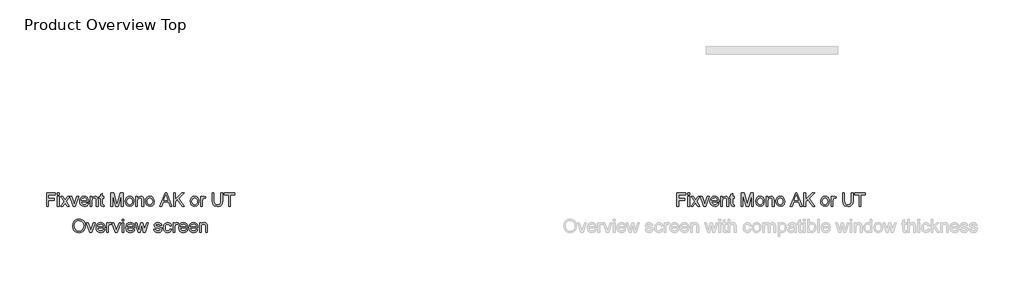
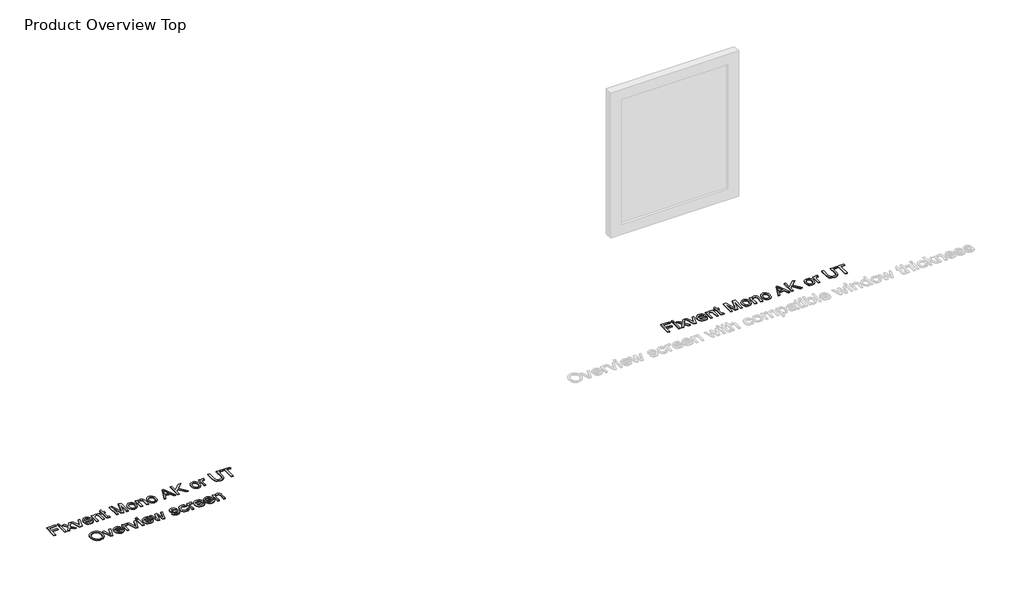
# One storey, part 1 of 3: 3 proxies.
"""IFC4 building model written with IfcOpenShell, lengths in millimetres."""

from ifc_helpers import new_model, si_unit, origin, origin_with_axes, place, context, project, spatial, polyline, outline, extrude, element, save

model = new_model("IFC4")

# Units and contexts
model_context = context("Model", 3, world=origin())
ifc_project = project(units=[si_unit("LENGTHUNIT", "METRE", prefix="MILLI")], contexts=[model_context])

# Site, building, storey
site = spatial("IfcSite", under=ifc_project)
building = spatial("IfcBuilding", under=site)
storey = spatial("IfcBuildingStorey", under=building, Name="Product Overview Top", Elevation=0.0)

# Proxies
placement = place(None, origin())
element("IfcBuildingElementProxy", 1, Name="100mm Arial", ObjectType="100mm Arial", at=placement, inside=storey, context=model_context, shape_type="SweptSolid", body=[
    extrude(outline(polyline([(-8244.2572775, -2523.9021098), (-8244.2572775, -2423.4457997), (-8176.7631941, -2423.4457997), (-8176.7631941, -2436.0028384), (-8231.7002387, -2436.0028384), (-8231.7002387, -2465.8258055), (-8184.6113433, -2465.8258055), (-8184.6113433, -2478.3828443), (-8231.7002387, -2478.3828443), (-8231.7002387, -2523.9021098), (-8244.2572775, -2523.9021098)])), origin_with_axes(), (0.0, 0.0, 1.0), 5.0),
    extrude(outline(polyline([(-8161.0668956, -2523.9021098), (-8161.0668956, -2450.129507), (-8148.5098569, -2450.129507), (-8148.5098569, -2523.9021098), (-8161.0668956, -2523.9021098)])), origin_with_axes(), (0.0, 0.0, 1.0), 5.0),
    extrude(outline(polyline([(-8161.0668956, -2436.0028384), (-8161.0668956, -2423.4457997), (-8148.5098569, -2423.4457997), (-8148.5098569, -2436.0028384), (-8161.0668956, -2436.0028384)])), origin_with_axes(), (0.0, 0.0, 1.0), 5.0),
    extrude(outline(polyline([(-8137.5224479, -2523.9021098), (-8110.6915878, -2486.8196047), (-8135.9528181, -2450.129507), (-8120.8451308, -2450.129507), (-8108.6559741, -2467.7878428), (-8102.9660659, -2476.1265014), (-8098.0364471, -2469.3084217), (-8084.1550332, -2450.129507), (-8069.0473459, -2450.129507), (-8095.5839005, -2486.8196047), (-8070.0283646, -2523.9021098), (-8085.1360518, -2523.9021098), (-8100.5135192, -2501.6084609), (-8103.3339479, -2497.5372335), (-8122.4147607, -2523.9021098), (-8137.5224479, -2523.9021098)])), origin_with_axes(), (0.0, 0.0, 1.0), 5.0),
    extrude(outline(polyline([(-8040.9411615, -2523.9021098), (-8066.8891049, -2450.129507), (-8053.5963021, -2450.129507), (-8037.8754782, -2494.3243974), (-8033.1420632, -2509.18683), (-8028.50675, -2495.1582633), (-8012.6878242, -2450.129507), (-7999.3950215, -2450.129507), (-8025.0241338, -2523.9021098), (-8040.9411615, -2523.9021098)])), origin_with_axes(), (0.0, 0.0, 1.0), 5.0),
    extrude(outline(polyline([(-7936.7569804, -2501.927292), (-7924.4451963, -2503.4969218), (-7928.8812401, -2512.7736795), (-7935.9599028, -2519.7082551), (-7945.521769, -2524.0308685), (-7957.4074231, -2525.4717397), (-7972.141097, -2522.9854705), (-7983.4779938, -2515.5266631), (-7990.706875, -2503.5796953), (-7993.1165021, -2487.6289451), (-7990.6823496, -2471.1417003), (-7983.379892, -2458.8115221), (-7972.1962793, -2451.1227884), (-7958.1186616, -2448.5598772), (-7944.4794367, -2451.1166571), (-7933.5809325, -2458.7869967), (-7926.4348248, -2471.0926494), (-7924.0527889, -2487.5553687), (-7924.1263653, -2490.939883), (-7980.5594633, -2490.939883), (-7978.3858939, -2500.339268), (-7973.3367135, -2507.2493182), (-7966.0495843, -2511.4983552), (-7957.1621684, -2512.9147009), (-7944.8503843, -2510.290476), (-7936.7569804, -2501.927292)]), holes=[polyline([(-7980.5594633, -2478.3828443), (-7936.6098276, -2478.3828443), (-7941.6375482, -2467.0030279), (-7948.9583999, -2462.588444), (-7958.1677126, -2461.116916), (-7973.6310191, -2465.8135428), (-7978.4962585, -2471.3041816), (-7980.5594633, -2478.3828443)])]), origin_with_axes(), (0.0, 0.0, 1.0), 5.0),
    extrude(outline(polyline([(-7911.4957501, -2523.9021098), (-7911.4957501, -2450.129507), (-7898.9387113, -2450.129507), (-7898.9387113, -2460.4302029), (-7889.3369913, -2451.5274586), (-7876.2281295, -2448.5598772), (-7864.3700665, -2450.9511102), (-7856.2766626, -2457.2296296), (-7852.5120035, -2466.4634676), (-7851.849816, -2478.6035735), (-7851.849816, -2523.9021098), (-7864.4068547, -2523.9021098), (-7864.4068547, -2480.2958307), (-7865.8538572, -2469.1857944), (-7870.967417, -2463.3119452), (-7879.5881184, -2461.116916), (-7893.2120149, -2466.0465347), (-7897.5070372, -2473.1895768), (-7898.9387113, -2484.7594655), (-7898.9387113, -2523.9021098), (-7911.4957501, -2523.9021098)])), origin_with_axes(), (0.0, 0.0, 1.0), 5.0),
    extrude(outline(polyline([(-7807.9001803, -2513.4297357), (-7806.3305504, -2524.2699918), (-7815.723804, -2525.4717397), (-7826.2452291, -2523.387075), (-7831.4936789, -2517.917896), (-7833.0142578, -2503.6686001), (-7833.0142578, -2462.6865458), (-7842.4320369, -2462.6865458), (-7842.4320369, -2450.129507), (-7833.0142578, -2450.129507), (-7833.0142578, -2432.2013912), (-7820.457219, -2424.8192258), (-7820.457219, -2450.129507), (-7807.9001803, -2450.129507), (-7807.9001803, -2462.6865458), (-7820.457219, -2462.6865458), (-7820.457219, -2503.3007181), (-7819.7950314, -2509.7754412), (-7817.6490531, -2512.0685723), (-7813.3693593, -2512.9147009), (-7807.9001803, -2513.4297357)])), origin_with_axes(), (0.0, 0.0, 1.0), 5.0),
    extrude(outline(polyline([(-7754.5327655, -2523.9021098), (-7754.5327655, -2423.4457997), (-7732.9258296, -2423.4457997), (-7712.3734888, -2494.250821), (-7708.228685, -2509.0396772), (-7703.7405247, -2493.0245477), (-7683.5315404, -2423.4457997), (-7661.9246046, -2423.4457997), (-7661.9246046, -2523.9021098), (-7674.4816433, -2523.9021098), (-7674.4816433, -2436.0028384), (-7699.7183482, -2523.9021098), (-7716.7390219, -2523.9021098), (-7741.9757267, -2436.0028384), (-7741.9757267, -2523.9021098), (-7754.5327655, -2523.9021098)])), origin_with_axes(), (0.0, 0.0, 1.0), 5.0),
    extrude(outline(polyline([(-7644.6586763, -2487.0158084), (-7641.9424809, -2469.228714), (-7633.7938947, -2456.7268575), (-7623.7261907, -2450.6016223), (-7611.671924, -2448.5598772), (-7598.4802888, -2451.0461464), (-7587.9435353, -2458.5049538), (-7581.0365509, -2470.3476884), (-7578.7342227, -2485.9857388), (-7582.8054501, -2508.3284387), (-7594.6635131, -2520.9713166), (-7611.671924, -2525.4717397), (-7625.0229748, -2522.9946676), (-7635.5474655, -2515.5634513), (-7642.3808736, -2503.4723963), (-7644.6586763, -2487.0158084)]), holes=[polyline([(-7632.1016375, -2486.991283), (-7630.6485036, -2498.3557709), (-7626.289102, -2506.4522405), (-7619.7285397, -2511.2990858), (-7611.671924, -2512.9147009), (-7603.6520965, -2511.2898887), (-7597.103797, -2506.4154523), (-7592.7443954, -2498.2116838), (-7591.2912615, -2486.5988755), (-7592.7535924, -2475.5654813), (-7597.1405852, -2467.5793764), (-7603.6980818, -2462.7325311), (-7611.671924, -2461.116916), (-7619.7285397, -2462.7263997), (-7626.289102, -2467.5548509), (-7630.6485036, -2475.6329264), (-7632.1016375, -2486.991283)])]), origin_with_axes(), (0.0, 0.0, 1.0), 5.0),
    extrude(outline(polyline([(-7564.6075541, -2523.9021098), (-7564.6075541, -2450.129507), (-7552.0505154, -2450.129507), (-7552.0505154, -2460.4302029), (-7542.4487953, -2451.5274586), (-7529.3399335, -2448.5598772), (-7517.4818705, -2450.9511102), (-7509.3884666, -2457.2296296), (-7505.6238076, -2466.4634676), (-7504.96162, -2478.6035735), (-7504.96162, -2523.9021098), (-7517.5186587, -2523.9021098), (-7517.5186587, -2480.2958307), (-7518.9656613, -2469.1857944), (-7524.079221, -2463.3119452), (-7532.6999224, -2461.116916), (-7546.323819, -2466.0465347), (-7550.6188413, -2473.1895768), (-7552.0505154, -2484.7594655), (-7552.0505154, -2523.9021098), (-7564.6075541, -2523.9021098)])), origin_with_axes(), (0.0, 0.0, 1.0), 5.0),
    extrude(outline(polyline([(-7490.8349514, -2487.0158084), (-7488.118756, -2469.228714), (-7479.9701698, -2456.7268575), (-7469.9024658, -2450.6016223), (-7457.8481991, -2448.5598772), (-7444.6565639, -2451.0461464), (-7434.1198104, -2458.5049538), (-7427.212826, -2470.3476884), (-7424.9104978, -2485.9857388), (-7428.9817252, -2508.3284387), (-7440.8397882, -2520.9713166), (-7457.8481991, -2525.4717397), (-7471.1992499, -2522.9946676), (-7481.7237406, -2515.5634513), (-7488.5571487, -2503.4723963), (-7490.8349514, -2487.0158084)]), holes=[polyline([(-7478.2779126, -2486.991283), (-7476.8247787, -2498.3557709), (-7472.4653771, -2506.4522405), (-7465.9048148, -2511.2990858), (-7457.8481991, -2512.9147009), (-7449.8283716, -2511.2898887), (-7443.2800721, -2506.4154523), (-7438.9206705, -2498.2116838), (-7437.4675366, -2486.5988755), (-7438.9298675, -2475.5654813), (-7443.3168603, -2467.5793764), (-7449.8743569, -2462.7325311), (-7457.8481991, -2461.116916), (-7465.9048148, -2462.7263997), (-7472.4653771, -2467.5548509), (-7476.8247787, -2475.6329264), (-7478.2779126, -2486.991283)])]), origin_with_axes(), (0.0, 0.0, 1.0), 5.0),
    extrude(outline(polyline([(-7381.6721007, -2523.9021098), (-7341.5729632, -2423.4457997), (-7330.8798599, -2423.4457997), (-7290.7807224, -2523.9021098), (-7304.0489997, -2523.9021098), (-7315.5514434, -2492.5095129), (-7356.9259051, -2492.5095129), (-7368.4038234, -2523.9021098), (-7381.6721007, -2523.9021098)]), holes=[polyline([(-7352.3151174, -2479.9524741), (-7320.1377056, -2479.9524741), (-7329.1876027, -2455.2553295), (-7336.2264115, -2436.0028384), (-7342.4804054, -2453.0970885), (-7352.3151174, -2479.9524741)])]), origin_with_axes(), (0.0, 0.0, 1.0), 5.0),
    extrude(outline(polyline([(-7277.3652923, -2523.9021098), (-7277.3652923, -2423.4457997), (-7264.8082535, -2423.4457997), (-7264.8082535, -2472.6193597), (-7213.3047742, -2423.4457997), (-7195.7445403, -2423.4457997), (-7238.9829375, -2464.746685), (-7194.1749104, -2523.9021098), (-7209.5278524, -2523.9021098), (-7247.8856817, -2473.2324963), (-7264.8082535, -2489.3702532), (-7264.8082535, -2523.9021098), (-7277.3652923, -2523.9021098)])), origin_with_axes(), (0.0, 0.0, 1.0), 5.0),
    extrude(outline(polyline([(-7150.2252748, -2487.0158084), (-7147.5090794, -2469.228714), (-7139.3604932, -2456.7268575), (-7129.2927892, -2450.6016223), (-7117.2385225, -2448.5598772), (-7104.0468873, -2451.0461464), (-7093.5101338, -2458.5049538), (-7086.6031494, -2470.3476884), (-7084.3008212, -2485.9857388), (-7088.3720486, -2508.3284387), (-7100.2301116, -2520.9713166), (-7117.2385225, -2525.4717397), (-7130.5895733, -2522.9946676), (-7141.114064, -2515.5634513), (-7147.9474721, -2503.4723963), (-7150.2252748, -2487.0158084)]), holes=[polyline([(-7137.668236, -2486.991283), (-7136.2151021, -2498.3557709), (-7131.8557005, -2506.4522405), (-7125.2951382, -2511.2990858), (-7117.2385225, -2512.9147009), (-7109.218695, -2511.2898887), (-7102.6703955, -2506.4154523), (-7098.3109939, -2498.2116838), (-7096.85786, -2486.5988755), (-7098.3201909, -2475.5654813), (-7102.7071837, -2467.5793764), (-7109.2646803, -2462.7325311), (-7117.2385225, -2461.116916), (-7125.2951382, -2462.7263997), (-7131.8557005, -2467.5548509), (-7136.2151021, -2475.6329264), (-7137.668236, -2486.991283)])]), origin_with_axes(), (0.0, 0.0, 1.0), 5.0),
    extrude(outline(polyline([(-7070.1741526, -2523.9021098), (-7070.1741526, -2450.129507), (-7059.1867437, -2450.129507), (-7059.1867437, -2461.0433396), (-7051.3876454, -2450.9878984), (-7043.5394962, -2448.5598772), (-7030.9334064, -2452.4349009), (-7035.1272612, -2463.6920899), (-7043.9564291, -2461.116916), (-7051.0565516, -2463.5939881), (-7055.5815001, -2470.4611186), (-7057.6171138, -2485.1273475), (-7057.6171138, -2523.9021098), (-7070.1741526, -2523.9021098)])), origin_with_axes(), (0.0, 0.0, 1.0), 5.0),
    extrude(outline(polyline([(-6916.3504277, -2423.4457997), (-6903.7933889, -2423.4457997), (-6903.7933889, -2481.3994766), (-6907.2024287, -2505.4221709), (-6919.4896874, -2519.8921961), (-6929.753595, -2524.0768538), (-6942.7888804, -2525.4717397), (-6965.7324542, -2520.6156973), (-6973.3721369, -2514.6713374), (-6978.4611712, -2506.5503424), (-6982.2748812, -2481.3994766), (-6982.2748812, -2423.4457997), (-6969.7178425, -2423.4457997), (-6969.7178425, -2480.9580182), (-6967.2407704, -2500.1001447), (-6958.7304335, -2509.5792375), (-6943.9661028, -2512.9147009), (-6931.1944662, -2511.2653633), (-6922.7025235, -2506.3173504), (-6917.9384516, -2496.6788422), (-6916.3504277, -2480.9580182), (-6916.3504277, -2423.4457997)])), origin_with_axes(), (0.0, 0.0, 1.0), 5.0),
    extrude(outline(polyline([(-6856.7044935, -2523.9021098), (-6856.7044935, -2436.0028384), (-6889.6667203, -2436.0028384), (-6889.6667203, -2423.4457997), (-6811.185228, -2423.4457997), (-6811.185228, -2436.0028384), (-6844.1474548, -2436.0028384), (-6844.1474548, -2523.9021098), (-6856.7044935, -2523.9021098)])), origin_with_axes(), (0.0, 0.0, 1.0), 5.0),
])
element("IfcBuildingElementProxy", 2, Name="100mm Arial", ObjectType="100mm Arial", at=placement, inside=storey, context=model_context, shape_type="SweptSolid", body=[
    extrude(outline(polyline([(-3444.2572775, -2523.9021098), (-3444.2572775, -2423.4457997), (-3376.7631941, -2423.4457997), (-3376.7631941, -2436.0028384), (-3431.7002387, -2436.0028384), (-3431.7002387, -2465.8258055), (-3384.6113433, -2465.8258055), (-3384.6113433, -2478.3828443), (-3431.7002387, -2478.3828443), (-3431.7002387, -2523.9021098), (-3444.2572775, -2523.9021098)])), origin_with_axes(), (0.0, 0.0, 1.0), 5.0),
    extrude(outline(polyline([(-3361.0668956, -2523.9021098), (-3361.0668956, -2450.129507), (-3348.5098569, -2450.129507), (-3348.5098569, -2523.9021098), (-3361.0668956, -2523.9021098)])), origin_with_axes(), (0.0, 0.0, 1.0), 5.0),
    extrude(outline(polyline([(-3361.0668956, -2436.0028384), (-3361.0668956, -2423.4457997), (-3348.5098569, -2423.4457997), (-3348.5098569, -2436.0028384), (-3361.0668956, -2436.0028384)])), origin_with_axes(), (0.0, 0.0, 1.0), 5.0),
    extrude(outline(polyline([(-3337.5224479, -2523.9021098), (-3310.6915878, -2486.8196047), (-3335.9528181, -2450.129507), (-3320.8451308, -2450.129507), (-3308.6559741, -2467.7878428), (-3302.9660659, -2476.1265014), (-3298.0364471, -2469.3084217), (-3284.1550332, -2450.129507), (-3269.0473459, -2450.129507), (-3295.5839005, -2486.8196047), (-3270.0283646, -2523.9021098), (-3285.1360518, -2523.9021098), (-3300.5135192, -2501.6084609), (-3303.3339479, -2497.5372335), (-3322.4147607, -2523.9021098), (-3337.5224479, -2523.9021098)])), origin_with_axes(), (0.0, 0.0, 1.0), 5.0),
    extrude(outline(polyline([(-3240.9411615, -2523.9021098), (-3266.8891049, -2450.129507), (-3253.5963021, -2450.129507), (-3237.8754782, -2494.3243974), (-3233.1420632, -2509.18683), (-3228.50675, -2495.1582633), (-3212.6878242, -2450.129507), (-3199.3950215, -2450.129507), (-3225.0241338, -2523.9021098), (-3240.9411615, -2523.9021098)])), origin_with_axes(), (0.0, 0.0, 1.0), 5.0),
    extrude(outline(polyline([(-3136.7569804, -2501.927292), (-3124.4451963, -2503.4969218), (-3128.8812401, -2512.7736795), (-3135.9599028, -2519.7082551), (-3145.521769, -2524.0308685), (-3157.4074231, -2525.4717397), (-3172.141097, -2522.9854705), (-3183.4779938, -2515.5266631), (-3190.706875, -2503.5796953), (-3193.1165021, -2487.6289451), (-3190.6823496, -2471.1417003), (-3183.379892, -2458.8115221), (-3172.1962793, -2451.1227884), (-3158.1186616, -2448.5598772), (-3144.4794367, -2451.1166571), (-3133.5809325, -2458.7869967), (-3126.4348248, -2471.0926494), (-3124.0527889, -2487.5553687), (-3124.1263653, -2490.939883), (-3180.5594633, -2490.939883), (-3178.3858939, -2500.339268), (-3173.3367135, -2507.2493182), (-3166.0495843, -2511.4983552), (-3157.1621684, -2512.9147009), (-3144.8503843, -2510.290476), (-3136.7569804, -2501.927292)]), holes=[polyline([(-3180.5594633, -2478.3828443), (-3136.6098276, -2478.3828443), (-3141.6375482, -2467.0030279), (-3148.9583999, -2462.588444), (-3158.1677126, -2461.116916), (-3173.6310191, -2465.8135428), (-3178.4962585, -2471.3041816), (-3180.5594633, -2478.3828443)])]), origin_with_axes(), (0.0, 0.0, 1.0), 5.0),
    extrude(outline(polyline([(-3111.4957501, -2523.9021098), (-3111.4957501, -2450.129507), (-3098.9387113, -2450.129507), (-3098.9387113, -2460.4302029), (-3089.3369913, -2451.5274586), (-3076.2281295, -2448.5598772), (-3064.3700665, -2450.9511102), (-3056.2766626, -2457.2296296), (-3052.5120035, -2466.4634676), (-3051.849816, -2478.6035735), (-3051.849816, -2523.9021098), (-3064.4068547, -2523.9021098), (-3064.4068547, -2480.2958307), (-3065.8538572, -2469.1857944), (-3070.967417, -2463.3119452), (-3079.5881184, -2461.116916), (-3093.2120149, -2466.0465347), (-3097.5070372, -2473.1895768), (-3098.9387113, -2484.7594655), (-3098.9387113, -2523.9021098), (-3111.4957501, -2523.9021098)])), origin_with_axes(), (0.0, 0.0, 1.0), 5.0),
    extrude(outline(polyline([(-3007.9001803, -2513.4297357), (-3006.3305504, -2524.2699918), (-3015.723804, -2525.4717397), (-3026.2452291, -2523.387075), (-3031.4936789, -2517.917896), (-3033.0142578, -2503.6686001), (-3033.0142578, -2462.6865458), (-3042.4320369, -2462.6865458), (-3042.4320369, -2450.129507), (-3033.0142578, -2450.129507), (-3033.0142578, -2432.2013912), (-3020.457219, -2424.8192258), (-3020.457219, -2450.129507), (-3007.9001803, -2450.129507), (-3007.9001803, -2462.6865458), (-3020.457219, -2462.6865458), (-3020.457219, -2503.3007181), (-3019.7950314, -2509.7754412), (-3017.6490531, -2512.0685723), (-3013.3693593, -2512.9147009), (-3007.9001803, -2513.4297357)])), origin_with_axes(), (0.0, 0.0, 1.0), 5.0),
    extrude(outline(polyline([(-2954.5327655, -2523.9021098), (-2954.5327655, -2423.4457997), (-2932.9258296, -2423.4457997), (-2912.3734888, -2494.250821), (-2908.228685, -2509.0396772), (-2903.7405247, -2493.0245477), (-2883.5315404, -2423.4457997), (-2861.9246046, -2423.4457997), (-2861.9246046, -2523.9021098), (-2874.4816433, -2523.9021098), (-2874.4816433, -2436.0028384), (-2899.7183482, -2523.9021098), (-2916.7390219, -2523.9021098), (-2941.9757267, -2436.0028384), (-2941.9757267, -2523.9021098), (-2954.5327655, -2523.9021098)])), origin_with_axes(), (0.0, 0.0, 1.0), 5.0),
    extrude(outline(polyline([(-2844.6586763, -2487.0158084), (-2841.9424809, -2469.228714), (-2833.7938947, -2456.7268575), (-2823.7261907, -2450.6016223), (-2811.671924, -2448.5598772), (-2798.4802888, -2451.0461464), (-2787.9435353, -2458.5049538), (-2781.0365509, -2470.3476884), (-2778.7342227, -2485.9857388), (-2782.8054501, -2508.3284387), (-2794.6635131, -2520.9713166), (-2811.671924, -2525.4717397), (-2825.0229748, -2522.9946676), (-2835.5474655, -2515.5634513), (-2842.3808736, -2503.4723963), (-2844.6586763, -2487.0158084)]), holes=[polyline([(-2832.1016375, -2486.991283), (-2830.6485036, -2498.3557709), (-2826.289102, -2506.4522405), (-2819.7285397, -2511.2990858), (-2811.671924, -2512.9147009), (-2803.6520965, -2511.2898887), (-2797.103797, -2506.4154523), (-2792.7443954, -2498.2116838), (-2791.2912615, -2486.5988755), (-2792.7535924, -2475.5654813), (-2797.1405852, -2467.5793764), (-2803.6980818, -2462.7325311), (-2811.671924, -2461.116916), (-2819.7285397, -2462.7263997), (-2826.289102, -2467.5548509), (-2830.6485036, -2475.6329264), (-2832.1016375, -2486.991283)])]), origin_with_axes(), (0.0, 0.0, 1.0), 5.0),
    extrude(outline(polyline([(-2764.6075541, -2523.9021098), (-2764.6075541, -2450.129507), (-2752.0505154, -2450.129507), (-2752.0505154, -2460.4302029), (-2742.4487953, -2451.5274586), (-2729.3399335, -2448.5598772), (-2717.4818705, -2450.9511102), (-2709.3884666, -2457.2296296), (-2705.6238076, -2466.4634676), (-2704.96162, -2478.6035735), (-2704.96162, -2523.9021098), (-2717.5186587, -2523.9021098), (-2717.5186587, -2480.2958307), (-2718.9656613, -2469.1857944), (-2724.079221, -2463.3119452), (-2732.6999224, -2461.116916), (-2746.323819, -2466.0465347), (-2750.6188413, -2473.1895768), (-2752.0505154, -2484.7594655), (-2752.0505154, -2523.9021098), (-2764.6075541, -2523.9021098)])), origin_with_axes(), (0.0, 0.0, 1.0), 5.0),
    extrude(outline(polyline([(-2690.8349514, -2487.0158084), (-2688.118756, -2469.228714), (-2679.9701698, -2456.7268575), (-2669.9024658, -2450.6016223), (-2657.8481991, -2448.5598772), (-2644.6565639, -2451.0461464), (-2634.1198104, -2458.5049538), (-2627.212826, -2470.3476884), (-2624.9104978, -2485.9857388), (-2628.9817252, -2508.3284387), (-2640.8397882, -2520.9713166), (-2657.8481991, -2525.4717397), (-2671.1992499, -2522.9946676), (-2681.7237406, -2515.5634513), (-2688.5571487, -2503.4723963), (-2690.8349514, -2487.0158084)]), holes=[polyline([(-2678.2779126, -2486.991283), (-2676.8247787, -2498.3557709), (-2672.4653771, -2506.4522405), (-2665.9048148, -2511.2990858), (-2657.8481991, -2512.9147009), (-2649.8283716, -2511.2898887), (-2643.2800721, -2506.4154523), (-2638.9206705, -2498.2116838), (-2637.4675366, -2486.5988755), (-2638.9298675, -2475.5654813), (-2643.3168603, -2467.5793764), (-2649.8743569, -2462.7325311), (-2657.8481991, -2461.116916), (-2665.9048148, -2462.7263997), (-2672.4653771, -2467.5548509), (-2676.8247787, -2475.6329264), (-2678.2779126, -2486.991283)])]), origin_with_axes(), (0.0, 0.0, 1.0), 5.0),
    extrude(outline(polyline([(-2581.6721007, -2523.9021098), (-2541.5729632, -2423.4457997), (-2530.8798599, -2423.4457997), (-2490.7807224, -2523.9021098), (-2504.0489997, -2523.9021098), (-2515.5514434, -2492.5095129), (-2556.9259051, -2492.5095129), (-2568.4038234, -2523.9021098), (-2581.6721007, -2523.9021098)]), holes=[polyline([(-2552.3151174, -2479.9524741), (-2520.1377056, -2479.9524741), (-2529.1876027, -2455.2553295), (-2536.2264115, -2436.0028384), (-2542.4804054, -2453.0970885), (-2552.3151174, -2479.9524741)])]), origin_with_axes(), (0.0, 0.0, 1.0), 5.0),
    extrude(outline(polyline([(-2477.3652923, -2523.9021098), (-2477.3652923, -2423.4457997), (-2464.8082535, -2423.4457997), (-2464.8082535, -2472.6193597), (-2413.3047742, -2423.4457997), (-2395.7445403, -2423.4457997), (-2438.9829375, -2464.746685), (-2394.1749104, -2523.9021098), (-2409.5278524, -2523.9021098), (-2447.8856817, -2473.2324963), (-2464.8082535, -2489.3702532), (-2464.8082535, -2523.9021098), (-2477.3652923, -2523.9021098)])), origin_with_axes(), (0.0, 0.0, 1.0), 5.0),
    extrude(outline(polyline([(-2350.2252748, -2487.0158084), (-2347.5090794, -2469.228714), (-2339.3604932, -2456.7268575), (-2329.2927892, -2450.6016223), (-2317.2385225, -2448.5598772), (-2304.0468873, -2451.0461464), (-2293.5101338, -2458.5049538), (-2286.6031494, -2470.3476884), (-2284.3008212, -2485.9857388), (-2288.3720486, -2508.3284387), (-2300.2301116, -2520.9713166), (-2317.2385225, -2525.4717397), (-2330.5895733, -2522.9946676), (-2341.114064, -2515.5634513), (-2347.9474721, -2503.4723963), (-2350.2252748, -2487.0158084)]), holes=[polyline([(-2337.668236, -2486.991283), (-2336.2151021, -2498.3557709), (-2331.8557005, -2506.4522405), (-2325.2951382, -2511.2990858), (-2317.2385225, -2512.9147009), (-2309.218695, -2511.2898887), (-2302.6703955, -2506.4154523), (-2298.3109939, -2498.2116838), (-2296.85786, -2486.5988755), (-2298.3201909, -2475.5654813), (-2302.7071837, -2467.5793764), (-2309.2646803, -2462.7325311), (-2317.2385225, -2461.116916), (-2325.2951382, -2462.7263997), (-2331.8557005, -2467.5548509), (-2336.2151021, -2475.6329264), (-2337.668236, -2486.991283)])]), origin_with_axes(), (0.0, 0.0, 1.0), 5.0),
    extrude(outline(polyline([(-2270.1741526, -2523.9021098), (-2270.1741526, -2450.129507), (-2259.1867437, -2450.129507), (-2259.1867437, -2461.0433396), (-2251.3876454, -2450.9878984), (-2243.5394962, -2448.5598772), (-2230.9334064, -2452.4349009), (-2235.1272612, -2463.6920899), (-2243.9564291, -2461.116916), (-2251.0565516, -2463.5939881), (-2255.5815001, -2470.4611186), (-2257.6171138, -2485.1273475), (-2257.6171138, -2523.9021098), (-2270.1741526, -2523.9021098)])), origin_with_axes(), (0.0, 0.0, 1.0), 5.0),
    extrude(outline(polyline([(-2116.3504277, -2423.4457997), (-2103.7933889, -2423.4457997), (-2103.7933889, -2481.3994766), (-2107.2024287, -2505.4221709), (-2119.4896874, -2519.8921961), (-2129.753595, -2524.0768538), (-2142.7888804, -2525.4717397), (-2165.7324542, -2520.6156973), (-2173.3721369, -2514.6713374), (-2178.4611712, -2506.5503424), (-2182.2748812, -2481.3994766), (-2182.2748812, -2423.4457997), (-2169.7178425, -2423.4457997), (-2169.7178425, -2480.9580182), (-2167.2407704, -2500.1001447), (-2158.7304335, -2509.5792375), (-2143.9661028, -2512.9147009), (-2131.1944662, -2511.2653633), (-2122.7025235, -2506.3173504), (-2117.9384516, -2496.6788422), (-2116.3504277, -2480.9580182), (-2116.3504277, -2423.4457997)])), origin_with_axes(), (0.0, 0.0, 1.0), 5.0),
    extrude(outline(polyline([(-2056.7044935, -2523.9021098), (-2056.7044935, -2436.0028384), (-2089.6667203, -2436.0028384), (-2089.6667203, -2423.4457997), (-2011.185228, -2423.4457997), (-2011.185228, -2436.0028384), (-2044.1474548, -2436.0028384), (-2044.1474548, -2523.9021098), (-2056.7044935, -2523.9021098)])), origin_with_axes(), (0.0, 0.0, 1.0), 5.0),
])
element("IfcBuildingElementProxy", 3, Name="100mm Arial", ObjectType="100mm Arial", at=placement, inside=storey, context=model_context, shape_type="SweptSolid", body=[
    extrude(outline(polyline([(-8044.914287, -2674.9983299), (-8041.5665609, -2652.7843888), (-8031.5233824, -2635.978313), (-8016.1888346, -2625.4017056), (-7996.9670003, -2621.8761698), (-7983.7906935, -2623.5316388), (-7971.9755501, -2628.4980457), (-7962.1653636, -2636.4259027), (-7955.0039274, -2646.9657219), (-7950.6261317, -2659.6085998), (-7949.1668664, -2673.845633), (-7950.7027737, -2688.2727386), (-7955.3104957, -2701.0934261), (-7962.7355807, -2711.6516394), (-7972.7235768, -2719.2913221), (-7984.4375527, -2723.9266353), (-7997.0405767, -2725.4717397), (-8010.4192186, -2723.7641541), (-8022.3018071, -2718.6413973), (-8032.0874681, -2710.5663875), (-8039.1753279, -2700.0020429), (-8044.914287, -2674.9983299)]), holes=[polyline([(-8032.3572483, -2675.1209573), (-8029.8464536, -2690.8356498), (-8022.3140698, -2702.8102088), (-8010.9925014, -2710.3885779), (-7997.1141531, -2712.9147009), (-7983.0334698, -2710.3640524), (-7971.6935072, -2702.7121069), (-7964.2163057, -2690.369666), (-7961.7239052, -2673.7475311), (-7965.9913363, -2653.0235121), (-7978.462536, -2639.3015137), (-7996.8934239, -2634.4332086), (-8010.4008245, -2636.7784563), (-8021.8848741, -2643.8141995), (-8029.7391547, -2656.3313844), (-8032.3572483, -2675.1209573)])]), origin_with_axes(), (0.0, 0.0, 1.0), 5.0),
    extrude(outline(polyline([(-7915.3707738, -2723.9021098), (-7941.3187172, -2650.129507), (-7928.0259144, -2650.129507), (-7912.3050905, -2694.3243974), (-7907.5716755, -2709.18683), (-7902.9363624, -2695.1582633), (-7887.1174366, -2650.129507), (-7873.8246338, -2650.129507), (-7899.4537461, -2723.9021098), (-7915.3707738, -2723.9021098)])), origin_with_axes(), (0.0, 0.0, 1.0), 5.0),
    extrude(outline(polyline([(-7811.1865928, -2701.927292), (-7798.8748086, -2703.4969218), (-7803.3108524, -2712.7736795), (-7810.3895151, -2719.7082551), (-7819.9513813, -2724.0308685), (-7831.8370354, -2725.4717397), (-7846.5707093, -2722.9854705), (-7857.9076061, -2715.5266631), (-7865.1364873, -2703.5796953), (-7867.5461144, -2687.6289451), (-7865.1119619, -2671.1417003), (-7857.8095043, -2658.8115221), (-7846.6258916, -2651.1227884), (-7832.5482739, -2648.5598772), (-7818.909049, -2651.1166571), (-7808.0105449, -2658.7869967), (-7800.8644371, -2671.0926494), (-7798.4824012, -2687.5553687), (-7798.5559776, -2690.939883), (-7854.9890756, -2690.939883), (-7852.8155062, -2700.339268), (-7847.7663258, -2707.2493182), (-7840.4791966, -2711.4983552), (-7831.5917808, -2712.9147009), (-7819.2799966, -2710.290476), (-7811.1865928, -2701.927292)]), holes=[polyline([(-7854.9890756, -2678.3828443), (-7811.03944, -2678.3828443), (-7816.0671606, -2667.0030279), (-7823.3880123, -2662.588444), (-7832.5973249, -2661.116916), (-7848.0606314, -2665.8135428), (-7852.9258708, -2671.3041816), (-7854.9890756, -2678.3828443)])]), origin_with_axes(), (0.0, 0.0, 1.0), 5.0),
    extrude(outline(polyline([(-7785.9253624, -2723.9021098), (-7785.9253624, -2650.129507), (-7774.9379535, -2650.129507), (-7774.9379535, -2661.0433396), (-7767.1388552, -2650.9878984), (-7759.290706, -2648.5598772), (-7746.6846163, -2652.4349009), (-7750.878471, -2663.6920899), (-7759.7076389, -2661.116916), (-7766.8077614, -2663.5939881), (-7771.3327099, -2670.4611186), (-7773.3683236, -2685.1273475), (-7773.3683236, -2723.9021098), (-7785.9253624, -2723.9021098)])), origin_with_axes(), (0.0, 0.0, 1.0), 5.0),
    extrude(outline(polyline([(-7720.7366729, -2723.9021098), (-7746.6846163, -2650.129507), (-7733.3918135, -2650.129507), (-7717.6709896, -2694.3243974), (-7712.9375746, -2709.18683), (-7708.3022614, -2695.1582633), (-7692.4833356, -2650.129507), (-7679.1905329, -2650.129507), (-7704.8196452, -2723.9021098), (-7720.7366729, -2723.9021098)])), origin_with_axes(), (0.0, 0.0, 1.0), 5.0),
    extrude(outline(polyline([(-7668.203124, -2636.0028384), (-7668.203124, -2623.4457997), (-7655.6460852, -2623.4457997), (-7655.6460852, -2636.0028384), (-7668.203124, -2636.0028384)])), origin_with_axes(), (0.0, 0.0, 1.0), 5.0),
    extrude(outline(polyline([(-7668.203124, -2723.9021098), (-7668.203124, -2650.129507), (-7655.6460852, -2650.129507), (-7655.6460852, -2723.9021098), (-7668.203124, -2723.9021098)])), origin_with_axes(), (0.0, 0.0, 1.0), 5.0),
    extrude(outline(polyline([(-7585.1598949, -2701.927292), (-7572.8481108, -2703.4969218), (-7577.2841545, -2712.7736795), (-7584.3628173, -2719.7082551), (-7593.9246835, -2724.0308685), (-7605.8103376, -2725.4717397), (-7620.5440115, -2722.9854705), (-7631.8809083, -2715.5266631), (-7639.1097895, -2703.5796953), (-7641.5194166, -2687.6289451), (-7639.085264, -2671.1417003), (-7631.7828064, -2658.8115221), (-7620.5991938, -2651.1227884), (-7606.5215761, -2648.5598772), (-7592.8823511, -2651.1166571), (-7581.983847, -2658.7869967), (-7574.8377393, -2671.0926494), (-7572.4557033, -2687.5553687), (-7572.5292797, -2690.939883), (-7628.9623778, -2690.939883), (-7626.7888084, -2700.339268), (-7621.739628, -2707.2493182), (-7614.4524988, -2711.4983552), (-7605.5650829, -2712.9147009), (-7593.2532988, -2710.290476), (-7585.1598949, -2701.927292)]), holes=[polyline([(-7628.9623778, -2678.3828443), (-7585.0127421, -2678.3828443), (-7590.0404627, -2667.0030279), (-7597.3613144, -2662.588444), (-7606.570627, -2661.116916), (-7622.0339336, -2665.8135428), (-7626.899173, -2671.3041816), (-7628.9623778, -2678.3828443)])]), origin_with_axes(), (0.0, 0.0, 1.0), 5.0),
    extrude(outline(polyline([(-7547.6604569, -2723.9021098), (-7570.1012586, -2650.129507), (-7557.0537105, -2650.129507), (-7544.3249935, -2693.1717005), (-7540.5235462, -2708.5491679), (-7537.4088119, -2693.7357862), (-7527.2797943, -2650.129507), (-7512.3192599, -2650.129507), (-7502.2392932, -2693.6131589), (-7499.4679155, -2707.028589), (-7495.49479, -2692.8773949), (-7482.7415475, -2650.129507), (-7469.6449484, -2650.129507), (-7492.2574284, -2723.9021098), (-7507.4386921, -2723.9021098), (-7517.0772003, -2680.6391872), (-7519.8731035, -2667.1501807), (-7532.3075149, -2723.9021098), (-7547.6604569, -2723.9021098)])), origin_with_axes(), (0.0, 0.0, 1.0), 5.0),
    extrude(outline(polyline([(-7426.4801277, -2701.927292), (-7413.9230889, -2700.3576621), (-7408.1105534, -2709.6773393), (-7394.7932251, -2712.9147009), (-7381.9909317, -2709.9471195), (-7377.8216024, -2702.981887), (-7382.0154572, -2697.3410298), (-7394.9403779, -2693.7603117), (-7413.8495125, -2687.6166824), (-7422.1023319, -2680.4429835), (-7424.9104978, -2670.3139659), (-7422.6541549, -2660.9575004), (-7416.4982629, -2653.808327), (-7408.5152236, -2650.0927188), (-7397.7117556, -2648.5598772), (-7382.4323901, -2651.0246866), (-7372.7203054, -2657.6956134), (-7368.4038234, -2668.9650652), (-7380.9608621, -2670.534695), (-7385.6820144, -2663.6062508), (-7396.730737, -2661.116916), (-7408.7482155, -2663.4958862), (-7412.353459, -2669.0386416), (-7410.8574056, -2672.6929361), (-7406.1730415, -2675.4643138), (-7395.3573109, -2678.1375896), (-7376.9264229, -2684.048227), (-7368.3670352, -2690.7436793), (-7365.2645637, -2701.6575118), (-7368.9065954, -2713.6749903), (-7379.4157577, -2722.3937936), (-7394.9649034, -2725.4717397), (-7407.6261754, -2723.9879489), (-7416.8661449, -2719.5365768), (-7423.0342996, -2712.1666742), (-7426.4801277, -2701.927292)])), origin_with_axes(), (0.0, 0.0, 1.0), 5.0),
    extrude(outline(polyline([(-7304.0489997, -2697.2184024), (-7291.4919609, -2698.7880323), (-7294.9929712, -2709.9563165), (-7301.5719276, -2718.3961426), (-7310.6095619, -2723.7028404), (-7321.4866062, -2725.4717397), (-7334.8437883, -2723.0038646), (-7345.2885713, -2715.6002395), (-7352.0300089, -2703.5858266), (-7354.2771547, -2687.2855886), (-7350.4389193, -2666.4266794), (-7338.7402718, -2653.0235121), (-7321.6582845, -2648.5598772), (-7311.0479546, -2650.0927188), (-7302.565209, -2654.6912438), (-7296.4798276, -2662.1101974), (-7293.0615907, -2672.1043249), (-7305.6186295, -2673.6739547), (-7311.4434278, -2664.2684384), (-7321.5601826, -2661.116916), (-7329.6750463, -2662.6681517), (-7336.1160469, -2667.321859), (-7340.3190987, -2675.3294237), (-7341.720116, -2686.942232), (-7340.3497555, -2698.7113902), (-7336.2386742, -2706.7465461), (-7329.9141696, -2711.3726622), (-7321.9035392, -2712.9147009), (-7310.0700017, -2709.0642027), (-7304.0489997, -2697.2184024)])), origin_with_axes(), (0.0, 0.0, 1.0), 5.0),
    extrude(outline(polyline([(-7280.504552, -2723.9021098), (-7280.504552, -2650.129507), (-7269.5171431, -2650.129507), (-7269.5171431, -2661.0433396), (-7261.7180448, -2650.9878984), (-7253.8698955, -2648.5598772), (-7241.2638058, -2652.4349009), (-7245.4576606, -2663.6920899), (-7254.2868285, -2661.116916), (-7261.386951, -2663.5939881), (-7265.9118995, -2670.4611186), (-7267.9475132, -2685.1273475), (-7267.9475132, -2723.9021098), (-7280.504552, -2723.9021098)])), origin_with_axes(), (0.0, 0.0, 1.0), 5.0),
    extrude(outline(polyline([(-7181.7650245, -2701.927292), (-7169.4532404, -2703.4969218), (-7173.8892841, -2712.7736795), (-7180.9679468, -2719.7082551), (-7190.529813, -2724.0308685), (-7202.4154671, -2725.4717397), (-7217.149141, -2722.9854705), (-7228.4860379, -2715.5266631), (-7235.7149191, -2703.5796953), (-7238.1245461, -2687.6289451), (-7235.6903936, -2671.1417003), (-7228.387936, -2658.8115221), (-7217.2043233, -2651.1227884), (-7203.1267057, -2648.5598772), (-7189.4874807, -2651.1166571), (-7178.5889766, -2658.7869967), (-7171.4428688, -2671.0926494), (-7169.0608329, -2687.5553687), (-7169.1344093, -2690.939883), (-7225.5675074, -2690.939883), (-7223.3939379, -2700.339268), (-7218.3447575, -2707.2493182), (-7211.0576283, -2711.4983552), (-7202.1702125, -2712.9147009), (-7189.8584284, -2710.290476), (-7181.7650245, -2701.927292)]), holes=[polyline([(-7225.5675074, -2678.3828443), (-7181.6178717, -2678.3828443), (-7186.6455923, -2667.0030279), (-7193.966444, -2662.588444), (-7203.1757566, -2661.116916), (-7218.6390631, -2665.8135428), (-7223.5043025, -2671.3041816), (-7225.5675074, -2678.3828443)])]), origin_with_axes(), (0.0, 0.0, 1.0), 5.0),
    extrude(outline(polyline([(-7104.853162, -2701.927292), (-7092.5413779, -2703.4969218), (-7096.9774216, -2712.7736795), (-7104.0560844, -2719.7082551), (-7113.6179505, -2724.0308685), (-7125.5036047, -2725.4717397), (-7140.2372786, -2722.9854705), (-7151.5741754, -2715.5266631), (-7158.8030566, -2703.5796953), (-7161.2126837, -2687.6289451), (-7158.7785311, -2671.1417003), (-7151.4760735, -2658.8115221), (-7140.2924609, -2651.1227884), (-7126.2148432, -2648.5598772), (-7112.5756182, -2651.1166571), (-7101.6771141, -2658.7869967), (-7094.5310064, -2671.0926494), (-7092.1489704, -2687.5553687), (-7092.2225468, -2690.939883), (-7148.6556449, -2690.939883), (-7146.4820755, -2700.339268), (-7141.4328951, -2707.2493182), (-7134.1457659, -2711.4983552), (-7125.25835, -2712.9147009), (-7112.9465659, -2710.290476), (-7104.853162, -2701.927292)]), holes=[polyline([(-7148.6556449, -2678.3828443), (-7104.7060092, -2678.3828443), (-7109.7337298, -2667.0030279), (-7117.0545815, -2662.588444), (-7126.2638941, -2661.116916), (-7141.7272007, -2665.8135428), (-7146.59244, -2671.3041816), (-7148.6556449, -2678.3828443)])]), origin_with_axes(), (0.0, 0.0, 1.0), 5.0),
    extrude(outline(polyline([(-7079.5919317, -2723.9021098), (-7079.5919317, -2650.129507), (-7067.0348929, -2650.129507), (-7067.0348929, -2660.4302029), (-7057.4331728, -2651.5274586), (-7044.3243111, -2648.5598772), (-7032.4662481, -2650.9511102), (-7024.3728442, -2657.2296296), (-7020.6081851, -2666.4634676), (-7019.9459975, -2678.6035735), (-7019.9459975, -2723.9021098), (-7032.5030363, -2723.9021098), (-7032.5030363, -2680.2958307), (-7033.9500388, -2669.1857944), (-7039.0635985, -2663.3119452), (-7047.6843, -2661.116916), (-7061.3081965, -2666.0465347), (-7065.6032188, -2673.1895768), (-7067.0348929, -2684.7594655), (-7067.0348929, -2723.9021098), (-7079.5919317, -2723.9021098)])), origin_with_axes(), (0.0, 0.0, 1.0), 5.0),
])

save(model, "model.ifc")
